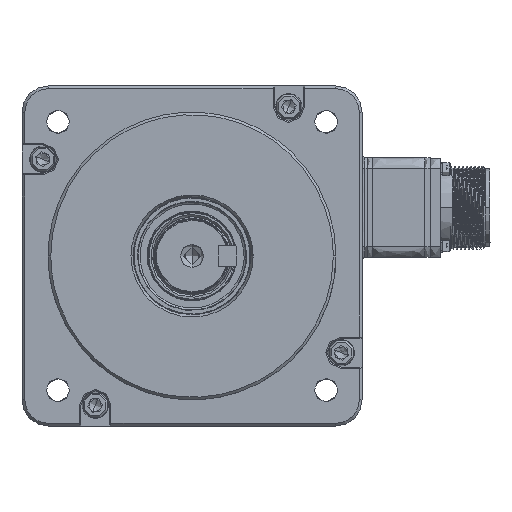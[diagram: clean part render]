
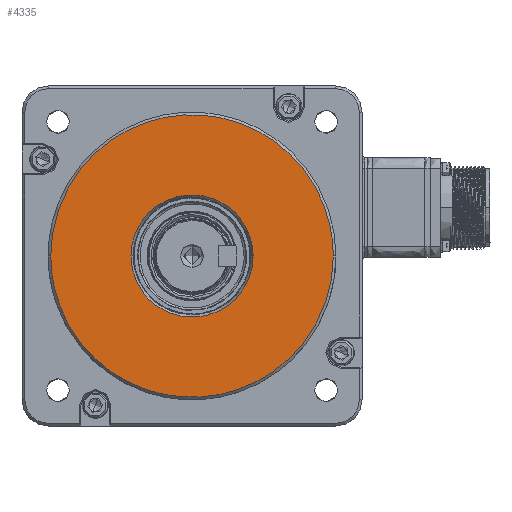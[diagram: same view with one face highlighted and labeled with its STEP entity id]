
A CAD part, left-side view. The second image highlights one B-rep face of the part: STEP entity #4335.
In plain terms, the highlighted planar face has unit normal (-1, 0, 0).
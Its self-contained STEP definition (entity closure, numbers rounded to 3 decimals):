
#1026=FACE_BOUND('',#14093,.T.);
#4335=ADVANCED_FACE('',(#9090,#1026),#74856,.T.);
#9090=FACE_OUTER_BOUND('',#14092,.T.);
#14092=EDGE_LOOP('',(#32926,#32927));
#14093=EDGE_LOOP('',(#32928,#32929));
#32926=ORIENTED_EDGE('',*,*,#46110,.F.);
#32927=ORIENTED_EDGE('',*,*,#49403,.F.);
#32928=ORIENTED_EDGE('',*,*,#46122,.T.);
#32929=ORIENTED_EDGE('',*,*,#49399,.T.);
#46110=EDGE_CURVE('',#69286,#69287,#63316,.T.);
#46122=EDGE_CURVE('',#69297,#69296,#63321,.T.);
#49399=EDGE_CURVE('',#69296,#69297,#64379,.T.);
#49403=EDGE_CURVE('',#69287,#69286,#64383,.T.);
#63316=(
BOUNDED_CURVE()
B_SPLINE_CURVE(2,(#165012,#165013,#165014,#165015,#165016),
 .UNSPECIFIED.,.F.,.F.)
B_SPLINE_CURVE_WITH_KNOTS((3,2,3),(0.,84.823,169.646),
 .UNSPECIFIED.)
CURVE()
GEOMETRIC_REPRESENTATION_ITEM()
RATIONAL_B_SPLINE_CURVE((1.,0.707,1.,0.707,1.))
REPRESENTATION_ITEM('')
);
#63321=(
BOUNDED_CURVE()
B_SPLINE_CURVE(2,(#165051,#165052,#165053,#165054,#165055),
 .UNSPECIFIED.,.F.,.F.)
B_SPLINE_CURVE_WITH_KNOTS((3,2,3),(-73.407,-36.703,
0.),.UNSPECIFIED.)
CURVE()
GEOMETRIC_REPRESENTATION_ITEM()
RATIONAL_B_SPLINE_CURVE((1.,0.707,1.,0.707,1.))
REPRESENTATION_ITEM('')
);
#64379=(
BOUNDED_CURVE()
B_SPLINE_CURVE(2,(#180645,#180646,#180647,#180648,#180649),
 .UNSPECIFIED.,.F.,.F.)
B_SPLINE_CURVE_WITH_KNOTS((3,2,3),(-73.407,-36.703,
0.),.UNSPECIFIED.)
CURVE()
GEOMETRIC_REPRESENTATION_ITEM()
RATIONAL_B_SPLINE_CURVE((1.,0.707,1.,0.707,1.))
REPRESENTATION_ITEM('')
);
#64383=(
BOUNDED_CURVE()
B_SPLINE_CURVE(2,(#180665,#180666,#180667,#180668,#180669),
 .UNSPECIFIED.,.F.,.F.)
B_SPLINE_CURVE_WITH_KNOTS((3,2,3),(0.,84.823,169.646),
 .UNSPECIFIED.)
CURVE()
GEOMETRIC_REPRESENTATION_ITEM()
RATIONAL_B_SPLINE_CURVE((1.,0.707,1.,0.707,1.))
REPRESENTATION_ITEM('')
);
#69286=VERTEX_POINT('',#161381);
#69287=VERTEX_POINT('',#161382);
#69296=VERTEX_POINT('',#161391);
#69297=VERTEX_POINT('',#161392);
#74856=PLANE('',#79132);
#79132=AXIS2_PLACEMENT_3D('',#157623,#80949,$);
#80949=DIRECTION('',(-1.,0.,0.));
#157623=CARTESIAN_POINT('',(-47.924,64.8,64.8));
#161381=CARTESIAN_POINT('',(-47.924,-54.,0.));
#161382=CARTESIAN_POINT('',(-47.924,54.,0.));
#161391=CARTESIAN_POINT('',(-47.924,-23.366,0.));
#161392=CARTESIAN_POINT('',(-47.924,23.366,0.));
#165012=CARTESIAN_POINT('',(-47.924,-54.,0.));
#165013=CARTESIAN_POINT('',(-47.924,-54.,-54.));
#165014=CARTESIAN_POINT('',(-47.924,0.,-54.));
#165015=CARTESIAN_POINT('',(-47.924,54.,-54.));
#165016=CARTESIAN_POINT('',(-47.924,54.,0.));
#165051=CARTESIAN_POINT('',(-47.924,23.366,0.));
#165052=CARTESIAN_POINT('',(-47.924,23.366,23.366));
#165053=CARTESIAN_POINT('',(-47.924,0.,23.366));
#165054=CARTESIAN_POINT('',(-47.924,-23.366,23.366));
#165055=CARTESIAN_POINT('',(-47.924,-23.366,0.));
#180645=CARTESIAN_POINT('',(-47.924,-23.366,0.));
#180646=CARTESIAN_POINT('',(-47.924,-23.366,-23.366));
#180647=CARTESIAN_POINT('',(-47.924,0.,-23.366));
#180648=CARTESIAN_POINT('',(-47.924,23.366,-23.366));
#180649=CARTESIAN_POINT('',(-47.924,23.366,0.));
#180665=CARTESIAN_POINT('',(-47.924,54.,0.));
#180666=CARTESIAN_POINT('',(-47.924,54.,54.));
#180667=CARTESIAN_POINT('',(-47.924,0.,54.));
#180668=CARTESIAN_POINT('',(-47.924,-54.,54.));
#180669=CARTESIAN_POINT('',(-47.924,-54.,0.));
